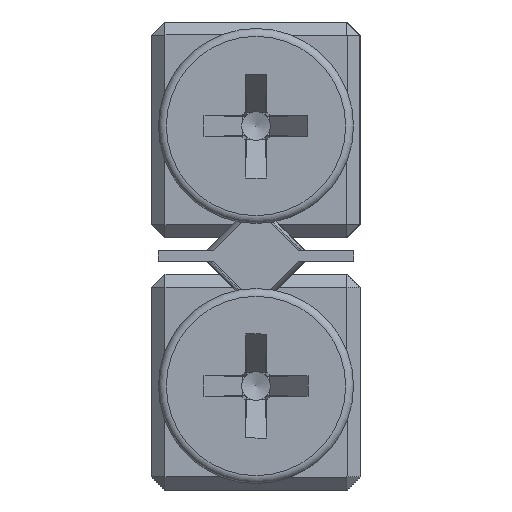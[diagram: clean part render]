
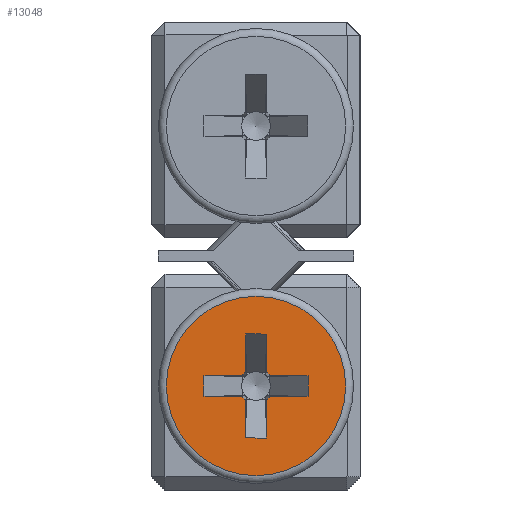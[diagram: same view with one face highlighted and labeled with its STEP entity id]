
A CAD part, left-side view. The second image highlights one B-rep face of the part: STEP entity #13048.
In plain terms, the highlighted planar face has unit normal (-1, 0, 0).
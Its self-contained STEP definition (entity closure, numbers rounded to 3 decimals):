
#42 = DIRECTION ( 'NONE',  ( -1., 0., 0. ) ) ;
#187 = ORIENTED_EDGE ( 'NONE', *, *, #17340, .T. ) ;
#254 = LINE ( 'NONE', #5477, #7478 ) ;
#463 = DIRECTION ( 'NONE',  ( 0., 0., 1. ) ) ;
#1076 = DIRECTION ( 'NONE',  ( 0., 1., 0. ) ) ;
#1330 = LINE ( 'NONE', #14304, #13489 ) ;
#1409 = ORIENTED_EDGE ( 'NONE', *, *, #13221, .F. ) ;
#1497 = EDGE_CURVE ( 'NONE', #3261, #17802, #1330, .T. ) ;
#1684 = DIRECTION ( 'NONE',  ( 0., 0., -1. ) ) ;
#1730 = CARTESIAN_POINT ( 'NONE',  ( -52., 0.4, 3.452 ) ) ;
#1952 = LINE ( 'NONE', #13439, #5352 ) ;
#2325 = VERTEX_POINT ( 'NONE', #10120 ) ;
#2396 = VERTEX_POINT ( 'NONE', #14459 ) ;
#2545 = DIRECTION ( 'NONE',  ( 0., 0., 1. ) ) ;
#2610 = AXIS2_PLACEMENT_3D ( 'NONE', #10449, #16786, #2545 ) ;
#2896 = LINE ( 'NONE', #7417, #5710 ) ;
#2955 = CARTESIAN_POINT ( 'NONE',  ( -52., -0.4, 2. ) ) ;
#3237 = DIRECTION ( 'NONE',  ( 0., 0., -1. ) ) ;
#3261 = VERTEX_POINT ( 'NONE', #18094 ) ;
#3386 = ORIENTED_EDGE ( 'NONE', *, *, #12927, .T. ) ;
#3436 = VERTEX_POINT ( 'NONE', #12147 ) ;
#3449 = VERTEX_POINT ( 'NONE', #12257 ) ;
#3661 = DIRECTION ( 'NONE',  ( 0., 0., 1. ) ) ;
#3731 = ORIENTED_EDGE ( 'NONE', *, *, #6698, .T. ) ;
#3744 = DIRECTION ( 'NONE',  ( 0., -1., 0. ) ) ;
#3948 = VERTEX_POINT ( 'NONE', #20477 ) ;
#3975 = FACE_BOUND ( 'NONE', #19543, .T. ) ;
#4332 = ORIENTED_EDGE ( 'NONE', *, *, #9387, .F. ) ;
#4854 = EDGE_CURVE ( 'NONE', #6381, #17995, #9779, .T. ) ;
#5242 = DIRECTION ( 'NONE',  ( -1., 0., 0. ) ) ;
#5352 = VECTOR ( 'NONE', #8458, 1000. ) ;
#5448 = CARTESIAN_POINT ( 'NONE',  ( -52., 0.4, 2. ) ) ;
#5477 = CARTESIAN_POINT ( 'NONE',  ( -52., 0.4, 2. ) ) ;
#5512 = ORIENTED_EDGE ( 'NONE', *, *, #20440, .F. ) ;
#5555 = CARTESIAN_POINT ( 'NONE',  ( -52., 0.4, 2. ) ) ;
#5564 = ORIENTED_EDGE ( 'NONE', *, *, #12923, .F. ) ;
#5637 = DIRECTION ( 'NONE',  ( 0., 0., 1. ) ) ;
#5710 = VECTOR ( 'NONE', #19254, 1000. ) ;
#5715 = EDGE_CURVE ( 'NONE', #3948, #10996, #5780, .T. ) ;
#5780 = LINE ( 'NONE', #9289, #10702 ) ;
#6116 = VERTEX_POINT ( 'NONE', #20670 ) ;
#6147 = ORIENTED_EDGE ( 'NONE', *, *, #8999, .F. ) ;
#6377 = DIRECTION ( 'NONE',  ( 0., 1., 0. ) ) ;
#6381 = VERTEX_POINT ( 'NONE', #9530 ) ;
#6698 = EDGE_CURVE ( 'NONE', #6116, #20419, #10483, .T. ) ;
#6765 = CARTESIAN_POINT ( 'NONE',  ( -52., 0., 4. ) ) ;
#6804 = ORIENTED_EDGE ( 'NONE', *, *, #5715, .T. ) ;
#6839 = AXIS2_PLACEMENT_3D ( 'NONE', #17031, #12171, #12381 ) ;
#6845 = DIRECTION ( 'NONE',  ( 0., 0., 1. ) ) ;
#6890 = VERTEX_POINT ( 'NONE', #15918 ) ;
#7387 = CIRCLE ( 'NONE', #2610, 0.678 ) ;
#7417 = CARTESIAN_POINT ( 'NONE',  ( -52., 2., 4.4 ) ) ;
#7473 = ORIENTED_EDGE ( 'NONE', *, *, #16818, .F. ) ;
#7478 = VECTOR ( 'NONE', #11658, 1000. ) ;
#7509 = PLANE ( 'NONE',  #6839 ) ;
#8458 = DIRECTION ( 'NONE',  ( 0., 0., -1. ) ) ;
#8641 = CARTESIAN_POINT ( 'NONE',  ( -52., 0., 4. ) ) ;
#8664 = EDGE_CURVE ( 'NONE', #2325, #2325, #19842, .T. ) ;
#8825 = VERTEX_POINT ( 'NONE', #5555 ) ;
#8999 = EDGE_CURVE ( 'NONE', #6890, #10996, #15423, .T. ) ;
#9080 = ORIENTED_EDGE ( 'NONE', *, *, #4854, .T. ) ;
#9089 = VERTEX_POINT ( 'NONE', #2955 ) ;
#9289 = CARTESIAN_POINT ( 'NONE',  ( -52., -2., 3.6 ) ) ;
#9387 = EDGE_CURVE ( 'NONE', #3436, #17995, #12054, .T. ) ;
#9530 = CARTESIAN_POINT ( 'NONE',  ( -52., -0.4, 6. ) ) ;
#9680 = ORIENTED_EDGE ( 'NONE', *, *, #1497, .T. ) ;
#9710 = VERTEX_POINT ( 'NONE', #1730 ) ;
#9779 = LINE ( 'NONE', #11481, #14680 ) ;
#10040 = LINE ( 'NONE', #5448, #18013 ) ;
#10120 = CARTESIAN_POINT ( 'NONE',  ( -52., 0., 0.55 ) ) ;
#10162 = ORIENTED_EDGE ( 'NONE', *, *, #15902, .F. ) ;
#10449 = CARTESIAN_POINT ( 'NONE',  ( -52., 0., 4. ) ) ;
#10483 = LINE ( 'NONE', #18523, #11440 ) ;
#10551 = ORIENTED_EDGE ( 'NONE', *, *, #14027, .T. ) ;
#10702 = VECTOR ( 'NONE', #1076, 1000. ) ;
#10890 = ORIENTED_EDGE ( 'NONE', *, *, #19531, .F. ) ;
#10933 = CARTESIAN_POINT ( 'NONE',  ( -52., -2., 4.4 ) ) ;
#10962 = LINE ( 'NONE', #14122, #14140 ) ;
#10996 = VERTEX_POINT ( 'NONE', #18924 ) ;
#11440 = VECTOR ( 'NONE', #11959, 1000. ) ;
#11481 = CARTESIAN_POINT ( 'NONE',  ( -52., -0.4, 6. ) ) ;
#11658 = DIRECTION ( 'NONE',  ( 0., 0., 1. ) ) ;
#11695 = VERTEX_POINT ( 'NONE', #10933 ) ;
#11837 = DIRECTION ( 'NONE',  ( -1., 0., 0. ) ) ;
#11959 = DIRECTION ( 'NONE',  ( 0., 1., 0. ) ) ;
#12054 = CIRCLE ( 'NONE', #20178, 0.678 ) ;
#12147 = CARTESIAN_POINT ( 'NONE',  ( -52., -0.548, 4.4 ) ) ;
#12171 = DIRECTION ( 'NONE',  ( 1., 0., 0. ) ) ;
#12257 = CARTESIAN_POINT ( 'NONE',  ( -52., 0.548, 4.4 ) ) ;
#12381 = DIRECTION ( 'NONE',  ( 0., 0., -1. ) ) ;
#12513 = CARTESIAN_POINT ( 'NONE',  ( -52., 2., 4.4 ) ) ;
#12691 = ORIENTED_EDGE ( 'NONE', *, *, #8664, .T. ) ;
#12923 = EDGE_CURVE ( 'NONE', #3948, #11695, #16720, .T. ) ;
#12927 = EDGE_CURVE ( 'NONE', #8825, #9710, #254, .T. ) ;
#13048 = ADVANCED_FACE ( 'NONE', ( #18532, #3975 ), #7509, .F. ) ;
#13217 = DIRECTION ( 'NONE',  ( 0., 0., -1. ) ) ;
#13221 = EDGE_CURVE ( 'NONE', #8825, #9089, #10040, .T. ) ;
#13439 = CARTESIAN_POINT ( 'NONE',  ( -52., -0.4, 6. ) ) ;
#13489 = VECTOR ( 'NONE', #20453, 1000. ) ;
#13889 = CARTESIAN_POINT ( 'NONE',  ( -52., 2., 3.6 ) ) ;
#13902 = VECTOR ( 'NONE', #3661, 1000. ) ;
#14027 = EDGE_CURVE ( 'NONE', #3436, #11695, #18848, .T. ) ;
#14122 = CARTESIAN_POINT ( 'NONE',  ( -52., -0.4, 6. ) ) ;
#14140 = VECTOR ( 'NONE', #6377, 1000. ) ;
#14304 = CARTESIAN_POINT ( 'NONE',  ( -52., 0.4, 2. ) ) ;
#14459 = CARTESIAN_POINT ( 'NONE',  ( -52., 2., 4.4 ) ) ;
#14513 = LINE ( 'NONE', #12513, #16466 ) ;
#14680 = VECTOR ( 'NONE', #1684, 1000. ) ;
#14704 = CARTESIAN_POINT ( 'NONE',  ( -52., 0., 4. ) ) ;
#14751 = AXIS2_PLACEMENT_3D ( 'NONE', #14704, #5242, #13217 ) ;
#15097 = AXIS2_PLACEMENT_3D ( 'NONE', #20272, #18590, #5637 ) ;
#15423 = CIRCLE ( 'NONE', #15097, 0.678 ) ;
#15902 = EDGE_CURVE ( 'NONE', #6381, #17802, #10962, .T. ) ;
#15918 = CARTESIAN_POINT ( 'NONE',  ( -52., -0.4, 3.452 ) ) ;
#16466 = VECTOR ( 'NONE', #3237, 1000. ) ;
#16720 = LINE ( 'NONE', #19913, #13902 ) ;
#16786 = DIRECTION ( 'NONE',  ( -1., 0., 0. ) ) ;
#16818 = EDGE_CURVE ( 'NONE', #6116, #9710, #7387, .T. ) ;
#17013 = ORIENTED_EDGE ( 'NONE', *, *, #18389, .T. ) ;
#17031 = CARTESIAN_POINT ( 'NONE',  ( -52., 3.75, 4. ) ) ;
#17068 = CARTESIAN_POINT ( 'NONE',  ( -52., -0.4, 4.548 ) ) ;
#17244 = CARTESIAN_POINT ( 'NONE',  ( -52., 2., 4.4 ) ) ;
#17281 = VECTOR ( 'NONE', #17452, 1000. ) ;
#17340 = EDGE_CURVE ( 'NONE', #6890, #9089, #1952, .T. ) ;
#17452 = DIRECTION ( 'NONE',  ( 0., -1., 0. ) ) ;
#17699 = EDGE_LOOP ( 'NONE', ( #12691 ) ) ;
#17802 = VERTEX_POINT ( 'NONE', #20806 ) ;
#17995 = VERTEX_POINT ( 'NONE', #17068 ) ;
#18013 = VECTOR ( 'NONE', #3744, 1000. ) ;
#18094 = CARTESIAN_POINT ( 'NONE',  ( -52., 0.4, 4.548 ) ) ;
#18285 = CIRCLE ( 'NONE', #20304, 0.678 ) ;
#18389 = EDGE_CURVE ( 'NONE', #2396, #3449, #2896, .T. ) ;
#18523 = CARTESIAN_POINT ( 'NONE',  ( -52., -2., 3.6 ) ) ;
#18532 = FACE_OUTER_BOUND ( 'NONE', #17699, .T. ) ;
#18590 = DIRECTION ( 'NONE',  ( -1., 0., 0. ) ) ;
#18848 = LINE ( 'NONE', #17244, #17281 ) ;
#18924 = CARTESIAN_POINT ( 'NONE',  ( -52., -0.548, 3.6 ) ) ;
#19254 = DIRECTION ( 'NONE',  ( 0., -1., 0. ) ) ;
#19531 = EDGE_CURVE ( 'NONE', #3261, #3449, #18285, .T. ) ;
#19543 = EDGE_LOOP ( 'NONE', ( #6147, #187, #1409, #3386, #7473, #3731, #5512, #17013, #10890, #9680, #10162, #9080, #4332, #10551, #5564, #6804 ) ) ;
#19842 = CIRCLE ( 'NONE', #14751, 3.45 ) ;
#19913 = CARTESIAN_POINT ( 'NONE',  ( -52., -2., 3.6 ) ) ;
#20178 = AXIS2_PLACEMENT_3D ( 'NONE', #6765, #42, #463 ) ;
#20272 = CARTESIAN_POINT ( 'NONE',  ( -52., 0., 4. ) ) ;
#20304 = AXIS2_PLACEMENT_3D ( 'NONE', #8641, #11837, #6845 ) ;
#20419 = VERTEX_POINT ( 'NONE', #13889 ) ;
#20440 = EDGE_CURVE ( 'NONE', #2396, #20419, #14513, .T. ) ;
#20453 = DIRECTION ( 'NONE',  ( 0., 0., 1. ) ) ;
#20477 = CARTESIAN_POINT ( 'NONE',  ( -52., -2., 3.6 ) ) ;
#20670 = CARTESIAN_POINT ( 'NONE',  ( -52., 0.548, 3.6 ) ) ;
#20806 = CARTESIAN_POINT ( 'NONE',  ( -52., 0.4, 6. ) ) ;
